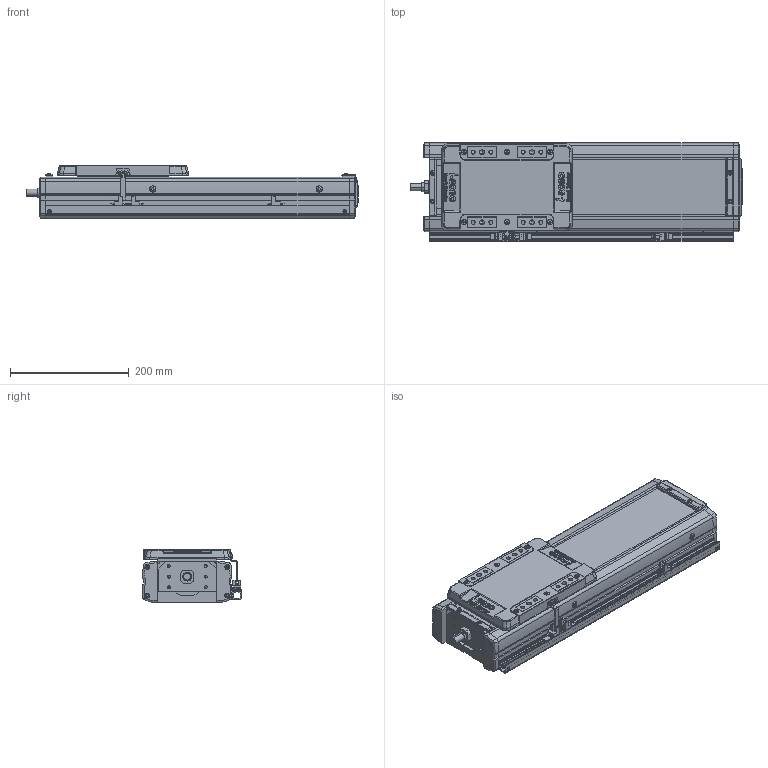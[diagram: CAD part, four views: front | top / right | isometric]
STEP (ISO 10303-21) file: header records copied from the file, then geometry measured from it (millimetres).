
FILE_DESCRIPTION(('STEP AP214'),'1');
FILE_NAME('Z:/Web/3D/SAN150/2013.04 (STP.)/SAN150ㅁㅁ-250+3SR.stp','2013-05-08T02:21:00',(' '),(' '),'Spatial InterOp 3D',' ',' ');
FILE_SCHEMA(('automotive_design'));
Length unit declared in the file: millimetre
Products named in the file (53): SLBL-SAN150; SLCV-SAN150; FHCS M4.0 x 8.0; BHCS M4.0 x 10.0; SFX-SAN150; RRCV-SAN150; FRBL-SAN150; Spacer; RN15; FRCV-SAN150; Screw 20; BASE-SAN150-000L ; SUS COVER; 스크루 : Round - M5.0 x 6.0; M3.0 x 6.0; SRL-16x17-360L; SGD-SAN150; EE-SX674; SBK-SX674-352; 스크루 : Round - M3.0 x 6.0
Bounding box: 558 x 166 x 90 mm (x, y, z)
Volume: 3504977.9 mm3; surface area: 715472.3 mm2
Topology: 53 solids, 53 shells, 2442 faces, 6297 edges, 4058 vertices
Faces by surface type: plane 1334, cylinder 773, cone 234, sphere 68, bspline 21, torus 12
Entity records: 96563 total; most frequent: CARTESIAN_POINT 15132, DIRECTION 13246, ORIENTED_EDGE 12410, EDGE_CURVE 6205, AXIS2_PLACEMENT_3D 4643, VERTEX_POINT 4058, LINE 3960, VECTOR 3960
